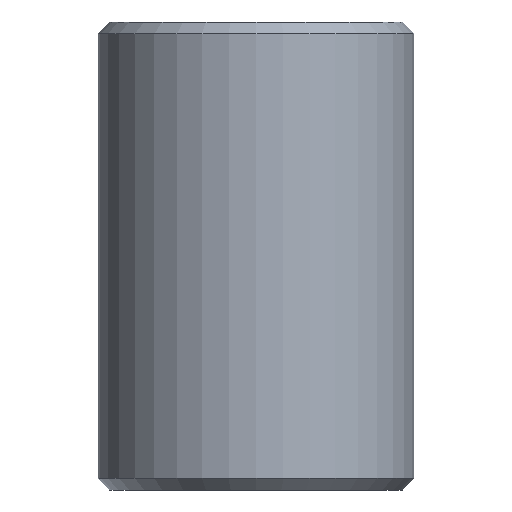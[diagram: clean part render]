
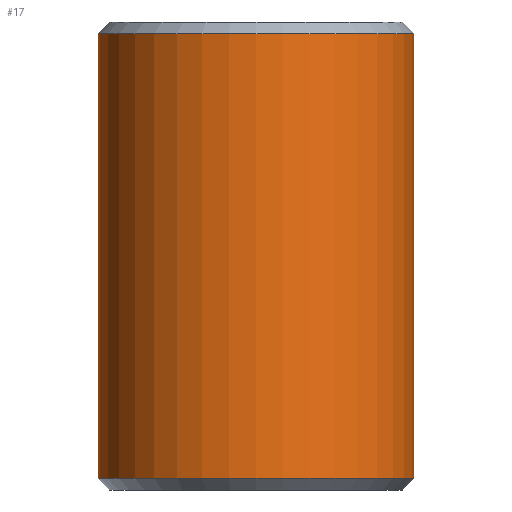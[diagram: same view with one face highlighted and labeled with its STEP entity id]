
A CAD part, front view. The second image highlights one B-rep face of the part: STEP entity #17.
In plain terms, the highlighted cylindrical face has radius 4.05 mm (diameter 8.1 mm), a full revolution.
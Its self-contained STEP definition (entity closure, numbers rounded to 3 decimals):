
#17 = ADVANCED_FACE('',(#18),#32,.T.);
#18 = FACE_BOUND('',#19,.T.);
#19 = EDGE_LOOP('',(#20,#50,#77,#78));
#20 = ORIENTED_EDGE('',*,*,#21,.T.);
#21 = EDGE_CURVE('',#22,#24,#26,.T.);
#22 = VERTEX_POINT('',#23);
#23 = CARTESIAN_POINT('',(4.05,0.,-5.7));
#24 = VERTEX_POINT('',#25);
#25 = CARTESIAN_POINT('',(4.05,0.,5.7));
#26 = SEAM_CURVE('',#27,(#31,#43),.PCURVE_S1.);
#27 = LINE('',#28,#29);
#28 = CARTESIAN_POINT('',(4.05,0.,-6.));
#29 = VECTOR('',#30,1.);
#30 = DIRECTION('',(0.,0.,1.));
#31 = PCURVE('',#32,#37);
#32 = CYLINDRICAL_SURFACE('',#33,4.05);
#33 = AXIS2_PLACEMENT_3D('',#34,#35,#36);
#34 = CARTESIAN_POINT('',(0.,0.,-6.));
#35 = DIRECTION('',(0.,0.,1.));
#36 = DIRECTION('',(1.,0.,-0.));
#37 = DEFINITIONAL_REPRESENTATION('',(#38),#42);
#38 = LINE('',#39,#40);
#39 = CARTESIAN_POINT('',(6.283,-0.));
#40 = VECTOR('',#41,1.);
#41 = DIRECTION('',(0.,1.));
#42 = ( GEOMETRIC_REPRESENTATION_CONTEXT(2) 
PARAMETRIC_REPRESENTATION_CONTEXT() REPRESENTATION_CONTEXT('2D SPACE',''
  ) );
#43 = PCURVE('',#32,#44);
#44 = DEFINITIONAL_REPRESENTATION('',(#45),#49);
#45 = LINE('',#46,#47);
#46 = CARTESIAN_POINT('',(0.,-0.));
#47 = VECTOR('',#48,1.);
#48 = DIRECTION('',(0.,1.));
#49 = ( GEOMETRIC_REPRESENTATION_CONTEXT(2) 
PARAMETRIC_REPRESENTATION_CONTEXT() REPRESENTATION_CONTEXT('2D SPACE',''
  ) );
#50 = ORIENTED_EDGE('',*,*,#51,.F.);
#51 = EDGE_CURVE('',#24,#24,#52,.T.);
#52 = SURFACE_CURVE('',#53,(#58,#65),.PCURVE_S1.);
#53 = CIRCLE('',#54,4.05);
#54 = AXIS2_PLACEMENT_3D('',#55,#56,#57);
#55 = CARTESIAN_POINT('',(0.,0.,5.7));
#56 = DIRECTION('',(0.,0.,1.));
#57 = DIRECTION('',(1.,0.,-0.));
#58 = PCURVE('',#32,#59);
#59 = DEFINITIONAL_REPRESENTATION('',(#60),#64);
#60 = LINE('',#61,#62);
#61 = CARTESIAN_POINT('',(0.,11.7));
#62 = VECTOR('',#63,1.);
#63 = DIRECTION('',(1.,0.));
#64 = ( GEOMETRIC_REPRESENTATION_CONTEXT(2) 
PARAMETRIC_REPRESENTATION_CONTEXT() REPRESENTATION_CONTEXT('2D SPACE',''
  ) );
#65 = PCURVE('',#66,#71);
#66 = CONICAL_SURFACE('',#67,4.05,0.785);
#67 = AXIS2_PLACEMENT_3D('',#68,#69,#70);
#68 = CARTESIAN_POINT('',(0.,0.,5.7));
#69 = DIRECTION('',(-0.,-0.,-1.));
#70 = DIRECTION('',(1.,0.,0.));
#71 = DEFINITIONAL_REPRESENTATION('',(#72),#76);
#72 = LINE('',#73,#74);
#73 = CARTESIAN_POINT('',(-0.,-0.));
#74 = VECTOR('',#75,1.);
#75 = DIRECTION('',(-1.,-0.));
#76 = ( GEOMETRIC_REPRESENTATION_CONTEXT(2) 
PARAMETRIC_REPRESENTATION_CONTEXT() REPRESENTATION_CONTEXT('2D SPACE',''
  ) );
#77 = ORIENTED_EDGE('',*,*,#21,.F.);
#78 = ORIENTED_EDGE('',*,*,#79,.T.);
#79 = EDGE_CURVE('',#22,#22,#80,.T.);
#80 = SURFACE_CURVE('',#81,(#86,#93),.PCURVE_S1.);
#81 = CIRCLE('',#82,4.05);
#82 = AXIS2_PLACEMENT_3D('',#83,#84,#85);
#83 = CARTESIAN_POINT('',(0.,0.,-5.7));
#84 = DIRECTION('',(0.,0.,1.));
#85 = DIRECTION('',(1.,0.,-0.));
#86 = PCURVE('',#32,#87);
#87 = DEFINITIONAL_REPRESENTATION('',(#88),#92);
#88 = LINE('',#89,#90);
#89 = CARTESIAN_POINT('',(0.,0.3));
#90 = VECTOR('',#91,1.);
#91 = DIRECTION('',(1.,0.));
#92 = ( GEOMETRIC_REPRESENTATION_CONTEXT(2) 
PARAMETRIC_REPRESENTATION_CONTEXT() REPRESENTATION_CONTEXT('2D SPACE',''
  ) );
#93 = PCURVE('',#94,#99);
#94 = CONICAL_SURFACE('',#95,4.05,0.785);
#95 = AXIS2_PLACEMENT_3D('',#96,#97,#98);
#96 = CARTESIAN_POINT('',(0.,0.,-5.7));
#97 = DIRECTION('',(0.,0.,1.));
#98 = DIRECTION('',(1.,0.,-0.));
#99 = DEFINITIONAL_REPRESENTATION('',(#100),#104);
#100 = LINE('',#101,#102);
#101 = CARTESIAN_POINT('',(0.,-0.));
#102 = VECTOR('',#103,1.);
#103 = DIRECTION('',(1.,-0.));
#104 = ( GEOMETRIC_REPRESENTATION_CONTEXT(2) 
PARAMETRIC_REPRESENTATION_CONTEXT() REPRESENTATION_CONTEXT('2D SPACE',''
  ) );
